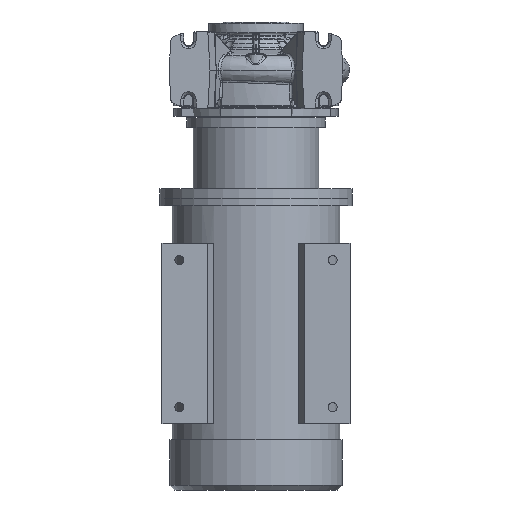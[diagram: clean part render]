
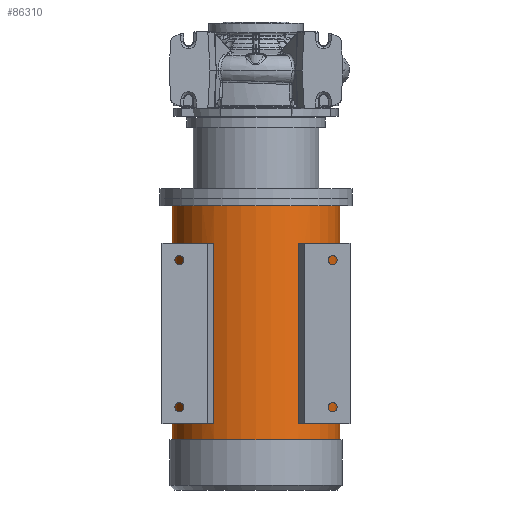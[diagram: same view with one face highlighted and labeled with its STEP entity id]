
A CAD part, front view. The second image highlights one B-rep face of the part: STEP entity #86310.
In plain terms, the highlighted cylindrical face has radius 173.5 mm (diameter 347 mm), a partial arc.
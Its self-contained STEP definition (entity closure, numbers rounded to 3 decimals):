
#1829 = VERTEX_POINT ( 'NONE', #33221 ) ;
#3684 = CARTESIAN_POINT ( 'NONE',  ( 0., 0., -733.8 ) ) ;
#4213 = ORIENTED_EDGE ( 'NONE', *, *, #30024, .T. ) ;
#4283 = DIRECTION ( 'NONE',  ( -1., 0., 0. ) ) ;
#4958 = DIRECTION ( 'NONE',  ( 1., 0., 0. ) ) ;
#5057 = EDGE_LOOP ( 'NONE', ( #9846, #24473, #4213, #47168 ) ) ;
#5503 = DIRECTION ( 'NONE',  ( 0., 0., -1. ) ) ;
#5523 = CIRCLE ( 'NONE', #48718, 173.5 ) ;
#7708 = DIRECTION ( 'NONE',  ( 0., 0., -1. ) ) ;
#7918 = LINE ( 'NONE', #62642, #76097 ) ;
#9126 = CARTESIAN_POINT ( 'NONE',  ( 0., 0., -733.8 ) ) ;
#9846 = ORIENTED_EDGE ( 'NONE', *, *, #32561, .F. ) ;
#10692 = LINE ( 'NONE', #35260, #61827 ) ;
#12858 = LINE ( 'NONE', #66670, #43541 ) ;
#13126 = EDGE_CURVE ( 'NONE', #28886, #57661, #15915, .T. ) ;
#15264 = CARTESIAN_POINT ( 'NONE',  ( -100.73, -141.265, -733.8 ) ) ;
#15742 = DIRECTION ( 'NONE',  ( 0., 0., 1. ) ) ;
#15915 = CIRCLE ( 'NONE', #26485, 173.5 ) ;
#16417 = FACE_BOUND ( 'NONE', #87259, .T. ) ;
#17972 = VERTEX_POINT ( 'NONE', #55358 ) ;
#18968 = AXIS2_PLACEMENT_3D ( 'NONE', #9126, #31018, #23757 ) ;
#19086 = ORIENTED_EDGE ( 'NONE', *, *, #36830, .T. ) ;
#19833 = EDGE_CURVE ( 'NONE', #75701, #69751, #7918, .T. ) ;
#20743 = LINE ( 'NONE', #59749, #93387 ) ;
#21966 = CIRCLE ( 'NONE', #79574, 173.5 ) ;
#23757 = DIRECTION ( 'NONE',  ( -1., 0., 0. ) ) ;
#24184 = VERTEX_POINT ( 'NONE', #85056 ) ;
#24473 = ORIENTED_EDGE ( 'NONE', *, *, #71881, .T. ) ;
#26318 = ORIENTED_EDGE ( 'NONE', *, *, #78646, .T. ) ;
#26485 = AXIS2_PLACEMENT_3D ( 'NONE', #77881, #5503, #71805 ) ;
#26744 = CARTESIAN_POINT ( 'NONE',  ( 173.5, 0., -870.8 ) ) ;
#27873 = AXIS2_PLACEMENT_3D ( 'NONE', #74371, #7708, #87705 ) ;
#28271 = DIRECTION ( 'NONE',  ( 0., 0., -1. ) ) ;
#28466 = CARTESIAN_POINT ( 'NONE',  ( -100.73, -141.265, -358.8 ) ) ;
#28886 = VERTEX_POINT ( 'NONE', #71799 ) ;
#28887 = FACE_BOUND ( 'NONE', #30282, .T. ) ;
#29231 = ORIENTED_EDGE ( 'NONE', *, *, #91690, .F. ) ;
#29362 = CARTESIAN_POINT ( 'NONE',  ( 173.5, 0., -280.8 ) ) ;
#30024 = EDGE_CURVE ( 'NONE', #17972, #57661, #79003, .T. ) ;
#30282 = EDGE_LOOP ( 'NONE', ( #92590, #26318, #29231, #45990 ) ) ;
#31018 = DIRECTION ( 'NONE',  ( 0., 0., 1. ) ) ;
#32561 = EDGE_CURVE ( 'NONE', #88084, #28886, #66523, .T. ) ;
#33221 = CARTESIAN_POINT ( 'NONE',  ( 87.271, -149.953, -733.8 ) ) ;
#35260 = CARTESIAN_POINT ( 'NONE',  ( 100.73, -141.265, -870.8 ) ) ;
#35428 = DIRECTION ( 'NONE',  ( 0., 0., -1. ) ) ;
#35735 = FACE_OUTER_BOUND ( 'NONE', #5057, .T. ) ;
#36830 = EDGE_CURVE ( 'NONE', #1829, #67981, #12858, .T. ) ;
#37277 = ORIENTED_EDGE ( 'NONE', *, *, #80231, .F. ) ;
#38306 = EDGE_CURVE ( 'NONE', #67981, #49557, #21966, .T. ) ;
#38490 = DIRECTION ( 'NONE',  ( 1., 0., 0. ) ) ;
#38898 = ORIENTED_EDGE ( 'NONE', *, *, #38306, .T. ) ;
#41072 = AXIS2_PLACEMENT_3D ( 'NONE', #59800, #67099, #38490 ) ;
#43541 = VECTOR ( 'NONE', #60321, 1000. ) ;
#45890 = DIRECTION ( 'NONE',  ( -1., 0., 0. ) ) ;
#45945 = CYLINDRICAL_SURFACE ( 'NONE', #93987, 173.5 ) ;
#45990 = ORIENTED_EDGE ( 'NONE', *, *, #66496, .F. ) ;
#47168 = ORIENTED_EDGE ( 'NONE', *, *, #13126, .F. ) ;
#47701 = DIRECTION ( 'NONE',  ( 0., 0., 1. ) ) ;
#48718 = AXIS2_PLACEMENT_3D ( 'NONE', #3684, #54829, #4958 ) ;
#49409 = CARTESIAN_POINT ( 'NONE',  ( -173.5, 0., -870.8 ) ) ;
#49557 = VERTEX_POINT ( 'NONE', #54044 ) ;
#53071 = DIRECTION ( 'NONE',  ( 0., 0., -1. ) ) ;
#54044 = CARTESIAN_POINT ( 'NONE',  ( 100.73, -141.265, -358.8 ) ) ;
#54829 = DIRECTION ( 'NONE',  ( 0., 0., -1. ) ) ;
#55358 = CARTESIAN_POINT ( 'NONE',  ( -173.5, 0., -280.8 ) ) ;
#57661 = VERTEX_POINT ( 'NONE', #81698 ) ;
#59749 = CARTESIAN_POINT ( 'NONE',  ( -100.73, -141.265, -870.8 ) ) ;
#59800 = CARTESIAN_POINT ( 'NONE',  ( 0., 0., -358.8 ) ) ;
#60321 = DIRECTION ( 'NONE',  ( 0., 0., 1. ) ) ;
#61827 = VECTOR ( 'NONE', #28271, 1000. ) ;
#62642 = CARTESIAN_POINT ( 'NONE',  ( -87.271, -149.953, -870.8 ) ) ;
#66351 = ORIENTED_EDGE ( 'NONE', *, *, #86493, .T. ) ;
#66496 = EDGE_CURVE ( 'NONE', #69751, #86031, #94194, .T. ) ;
#66523 = LINE ( 'NONE', #26744, #68854 ) ;
#66670 = CARTESIAN_POINT ( 'NONE',  ( 87.271, -149.953, -870.8 ) ) ;
#67099 = DIRECTION ( 'NONE',  ( 0., 0., -1. ) ) ;
#67822 = DIRECTION ( 'NONE',  ( 0., 0., -1. ) ) ;
#67981 = VERTEX_POINT ( 'NONE', #74188 ) ;
#68284 = CIRCLE ( 'NONE', #27873, 173.5 ) ;
#68854 = VECTOR ( 'NONE', #78461, 1000. ) ;
#69751 = VERTEX_POINT ( 'NONE', #87809 ) ;
#69931 = VECTOR ( 'NONE', #35428, 1000. ) ;
#71799 = CARTESIAN_POINT ( 'NONE',  ( 173.5, 0., -766.8 ) ) ;
#71805 = DIRECTION ( 'NONE',  ( -1., 0., 0. ) ) ;
#71881 = EDGE_CURVE ( 'NONE', #88084, #17972, #68284, .T. ) ;
#74188 = CARTESIAN_POINT ( 'NONE',  ( 87.271, -149.953, -358.8 ) ) ;
#74371 = CARTESIAN_POINT ( 'NONE',  ( 0., 0., -280.8 ) ) ;
#74773 = CARTESIAN_POINT ( 'NONE',  ( 0., 0., -358.8 ) ) ;
#75701 = VERTEX_POINT ( 'NONE', #84567 ) ;
#76097 = VECTOR ( 'NONE', #47701, 1000. ) ;
#77881 = CARTESIAN_POINT ( 'NONE',  ( 0., 0., -766.8 ) ) ;
#78461 = DIRECTION ( 'NONE',  ( 0., 0., -1. ) ) ;
#78646 = EDGE_CURVE ( 'NONE', #75701, #81484, #5523, .T. ) ;
#79003 = LINE ( 'NONE', #49409, #69931 ) ;
#79574 = AXIS2_PLACEMENT_3D ( 'NONE', #74773, #15742, #45890 ) ;
#80231 = EDGE_CURVE ( 'NONE', #1829, #24184, #82560, .T. ) ;
#81484 = VERTEX_POINT ( 'NONE', #15264 ) ;
#81698 = CARTESIAN_POINT ( 'NONE',  ( -173.5, 0., -766.8 ) ) ;
#82081 = CARTESIAN_POINT ( 'NONE',  ( 0., 0., -870.8 ) ) ;
#82560 = CIRCLE ( 'NONE', #18968, 173.5 ) ;
#84567 = CARTESIAN_POINT ( 'NONE',  ( -87.271, -149.953, -733.8 ) ) ;
#85056 = CARTESIAN_POINT ( 'NONE',  ( 100.73, -141.265, -733.8 ) ) ;
#86031 = VERTEX_POINT ( 'NONE', #28466 ) ;
#86310 = ADVANCED_FACE ( 'NONE', ( #35735, #16417, #28887 ), #45945, .T. ) ;
#86493 = EDGE_CURVE ( 'NONE', #49557, #24184, #10692, .T. ) ;
#87259 = EDGE_LOOP ( 'NONE', ( #37277, #19086, #38898, #66351 ) ) ;
#87705 = DIRECTION ( 'NONE',  ( -1., 0., 0. ) ) ;
#87809 = CARTESIAN_POINT ( 'NONE',  ( -87.271, -149.953, -358.8 ) ) ;
#88084 = VERTEX_POINT ( 'NONE', #29362 ) ;
#91690 = EDGE_CURVE ( 'NONE', #86031, #81484, #20743, .T. ) ;
#92590 = ORIENTED_EDGE ( 'NONE', *, *, #19833, .F. ) ;
#93387 = VECTOR ( 'NONE', #53071, 1000. ) ;
#93987 = AXIS2_PLACEMENT_3D ( 'NONE', #82081, #67822, #4283 ) ;
#94194 = CIRCLE ( 'NONE', #41072, 173.5 ) ;
